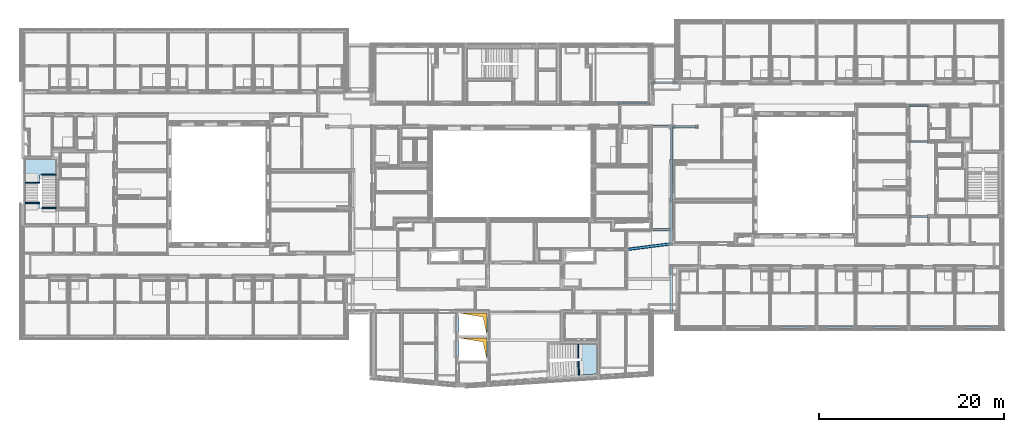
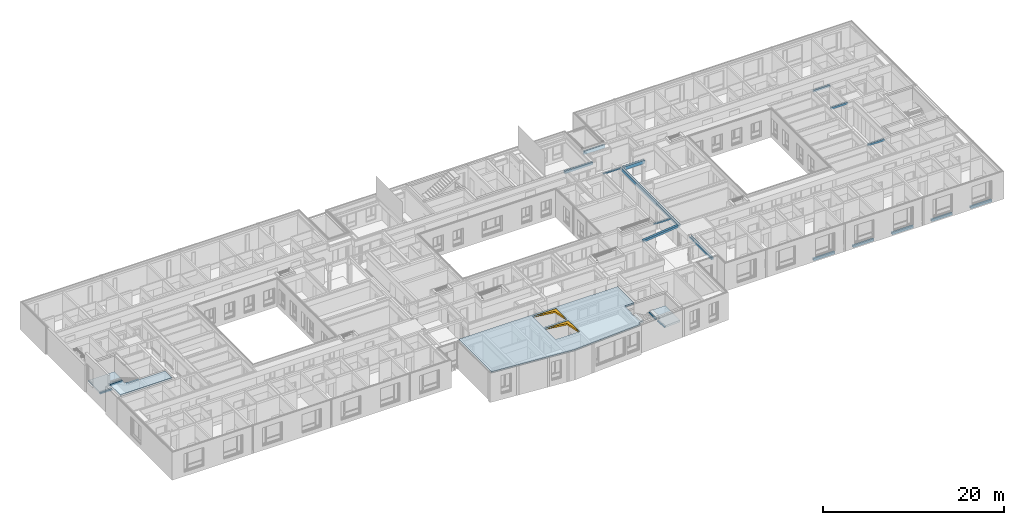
# One storey, part 7 of 222: 18 beams, 10 slabs, 2 windows, 2 openings.
"""IFC4 building model written with IfcOpenShell, lengths in metres."""

import ifcopenshell
import ifcopenshell.guid

model = None  # the IFC model being written
_history = None  # IfcOwnerHistory: only IFC2X3 demands one
_inside = {}  # id of a spatial element -> (the spatial element, [elements in it])
_under = {}  # id of a project, library or spatial element -> (it, [spatial elements below it])
_declared = {}  # id of a project -> (the project, [libraries it declares])
_typed = {}  # id of a type object -> (the type object, [elements of that type])
_made_of = {}  # id of a material, layer set ... -> (it, [elements and type objects made of it])


def new_model(schema):
    """Start an empty IFC model of exactly this schema.

    Asked for "IFC4X3", IfcOpenShell would pick the latest addendum, in which some entities
    have other attributes; the version numbers below select the first issue.
    IFC2X3 requires an IfcOwnerHistory on every rooted entity: one is made here for all.
    """
    global model, _history
    if schema == "IFC4X3":
        model = ifcopenshell.file(schema_version=(4, 3, 0, 0))
    else:
        model = ifcopenshell.file(schema=schema)
    _inside.clear()
    _under.clear()
    _declared.clear()
    _typed.clear()
    _made_of.clear()
    _history = None
    if model.schema == "IFC2X3":
        org = make("IfcOrganization", Name="unknown")
        user = make(
            "IfcPersonAndOrganization",
            ThePerson=make("IfcPerson", FamilyName="unknown"),
            TheOrganization=org,
        )
        app = make(
            "IfcApplication",
            ApplicationDeveloper=org,
            Version="unknown",
            ApplicationFullName="unknown",
            ApplicationIdentifier="unknown",
        )
        _history = make(
            "IfcOwnerHistory",
            OwningUser=user,
            OwningApplication=app,
            ChangeAction="ADDED",
            CreationDate=0,
        )
    return model


def make(cls, **values):
    """One entity of the class cls with the attributes given. An attribute that is None is left unset."""
    return model.create_entity(
        cls, **{name: value for name, value in values.items() if value is not None}
    )


def entity(cls, *values):
    """Any entity or typed value of the class cls, its attributes in the order of the schema. None: left unset."""
    e = model.create_entity(cls)
    for i, value in enumerate(values):
        if value is not None:
            e[i] = value
    return e


def rooted(cls, **values):
    """An entity with a GlobalId (a new one), such as an element, a storey or a relation."""
    return make(cls, GlobalId=ifcopenshell.guid.new(), OwnerHistory=_history, **values)


def si_unit(unit_type, name, prefix=None):
    """IfcSIUnit, for example si_unit("LENGTHUNIT", "METRE", prefix="MILLI")."""
    return make("IfcSIUnit", UnitType=unit_type, Prefix=prefix, Name=name)


def converted_unit(unit_type, name, factor, base, dimensions=None, offset=None):
    """IfcConversionBasedUnit, such as the inch: factor (a typed value) times the base unit."""
    return make(
        "IfcConversionBasedUnit"
        if offset is None
        else "IfcConversionBasedUnitWithOffset",
        ConversionOffset=offset,
        Dimensions=None
        if dimensions is None
        else entity("IfcDimensionalExponents", *dimensions),
        UnitType=unit_type,
        Name=name,
        ConversionFactor=make(
            "IfcMeasureWithUnit", ValueComponent=factor, UnitComponent=base
        ),
    )


def derived_unit(unit_type, elements):
    """IfcDerivedUnit: a product of units, each with its exponent."""
    return make(
        "IfcDerivedUnit",
        Elements=[
            make("IfcDerivedUnitElement", Unit=unit, Exponent=power)
            for unit, power in elements
        ],
        UnitType=unit_type,
    )


def assignment(units):
    """IfcUnitAssignment: the units of a project."""
    return None if units is None else make("IfcUnitAssignment", Units=units)


def point(xyz):
    """IfcCartesianPoint."""
    return None if xyz is None else make("IfcCartesianPoint", Coordinates=xyz)


def direction(xyz):
    """IfcDirection."""
    return None if xyz is None else make("IfcDirection", DirectionRatios=xyz)


def frame(location, z_axis=None, x_axis=None):
    """IfcAxis2Placement3D, a coordinate frame: its origin and axes. An axis left out is left unset."""
    return make(
        "IfcAxis2Placement3D",
        Location=point(location),
        Axis=direction(z_axis),
        RefDirection=direction(x_axis),
    )


def frame_2d(location, x_axis=None):
    """IfcAxis2Placement2D, a coordinate frame in the plane: its origin and x axis."""
    return make(
        "IfcAxis2Placement2D", Location=point(location), RefDirection=direction(x_axis)
    )


def origin():
    """The frame at (0, 0, 0) with its axes left unset."""
    return frame((0.0, 0.0, 0.0))


def origin_with_axes():
    """The frame at (0, 0, 0) with the z axis (0, 0, 1) and the x axis (1, 0, 0) written out."""
    return frame((0.0, 0.0, 0.0), z_axis=(0.0, 0.0, 1.0), x_axis=(1.0, 0.0, 0.0))


def place(relative_to, where):
    """IfcLocalPlacement: puts the frame where relative to a parent placement (None: the world)."""
    return make(
        "IfcLocalPlacement", PlacementRelTo=relative_to, RelativePlacement=where
    )


def context(
    kind, dimensions, precision=None, world=None, true_north=None, identifier=None
):
    """IfcGeometricRepresentationContext, for example the 3D "Model" context."""
    return make(
        "IfcGeometricRepresentationContext",
        ContextIdentifier=identifier,
        ContextType=kind,
        CoordinateSpaceDimension=dimensions,
        Precision=precision,
        WorldCoordinateSystem=world,
        TrueNorth=true_north,
    )


def subcontext(parent, identifier, kind, view, scale=None):
    """IfcGeometricRepresentationSubContext, for example "Body" below "Model"."""
    return make(
        "IfcGeometricRepresentationSubContext",
        ContextIdentifier=identifier,
        ContextType=kind,
        ParentContext=parent,
        TargetScale=scale,
        TargetView=view,
    )


def project(units=None, contexts=None):
    """IfcProject with its units and contexts."""
    return rooted(
        "IfcProject",
        Name="project",
        RepresentationContexts=contexts,
        UnitsInContext=assignment(units),
    )


def spatial(cls, under=None, at=None, **own):
    """A site, building, storey or space (cls), placed at a placement, below another one or the project."""
    s = rooted(cls, ObjectPlacement=at, **own)
    if under is not None:
        _under.setdefault(under.id(), (under, []))[1].append(s)
    return s


def polyline(points):
    """IfcPolyline through the points."""
    return make("IfcPolyline", Points=[point(p) for p in points])


def profile(cls, at=None, kind="AREA", **sizes):
    """A parametric profile (cls). Its sizes go by their IFC names, for example OverallWidth=200.0."""
    return make(cls, ProfileType=kind, Position=at, **sizes)


def rectangle(**sizes):
    """IfcRectangleProfileDef."""
    return profile("IfcRectangleProfileDef", **sizes)


def outline(outer, holes=None, kind="AREA"):
    """IfcArbitraryClosedProfileDef: a profile drawn as a closed curve; with holes, ...WithVoids."""
    if holes is None:
        return make("IfcArbitraryClosedProfileDef", ProfileType=kind, OuterCurve=outer)
    return make(
        "IfcArbitraryProfileDefWithVoids",
        ProfileType=kind,
        OuterCurve=outer,
        InnerCurves=holes,
    )


def extrude(swept, where, along, depth):
    """IfcExtrudedAreaSolid: the profile swept, set in the frame where, extruded along a direction by depth."""
    return make(
        "IfcExtrudedAreaSolid",
        SweptArea=swept,
        Position=where,
        ExtrudedDirection=direction(along),
        Depth=depth,
    )


def faces_of(points, faces, orient=None, outer=None):
    """IfcFace entities. A face is a list of loops; a loop is a list of indices into points, from 0.

    orient and outer hold one flag for each loop. By default every Orientation is true, the
    first loop of a face is its IfcFaceOuterBound and the others are IfcFaceBound.
    """
    made = []
    for i, loops in enumerate(faces):
        bounds = []
        for j, loop in enumerate(loops):
            is_outer = j == 0 if outer is None else outer[i][j]
            bounds.append(
                make(
                    "IfcFaceOuterBound" if is_outer else "IfcFaceBound",
                    Bound=make("IfcPolyLoop", Polygon=[points[k] for k in loop]),
                    Orientation=True if orient is None else orient[i][j],
                )
            )
        made.append(make("IfcFace", Bounds=bounds))
    return made


def open_shell(faces, orient=None, outer=None):
    """The faces of one IfcOpenShell. surface_model builds it on its shared points."""
    return ("IfcOpenShell", faces, orient, outer)


def faceted_brep(points, faces, orient=None, outer=None, voids=None):
    """IfcFacetedBrep: a solid bounded by flat faces; with voids (closed shells), ...WithVoids."""
    shared = [point(p) for p in points]
    hull = make("IfcClosedShell", CfsFaces=faces_of(shared, faces, orient, outer))
    if voids is None:
        return make("IfcFacetedBrep", Outer=hull)
    return make(
        "IfcFacetedBrepWithVoids",
        Outer=hull,
        Voids=[
            make(cls, CfsFaces=faces_of(shared, fs, o, b)) for cls, fs, o, b in voids
        ],
    )


def surface_model(cls, points, shells):
    """IfcFaceBasedSurfaceModel or IfcShellBasedSurfaceModel (cls): surfaces that need not close."""
    shared = [point(p) for p in points]
    made = [make(c, CfsFaces=faces_of(shared, fs, o, b)) for c, fs, o, b in shells]
    if cls == "IfcFaceBasedSurfaceModel":
        return make(cls, FbsmFaces=made)
    return make(cls, SbsmBoundary=made)


def shape(context_of_items, identifier, shape_type, items):
    """IfcShapeRepresentation: the items that make up one representation, for example the "Body"."""
    return make(
        "IfcShapeRepresentation",
        ContextOfItems=context_of_items,
        RepresentationIdentifier=identifier,
        RepresentationType=shape_type,
        Items=items,
    )


def source(mapping_origin, context_of_items, identifier, shape_type, items):
    """IfcRepresentationMap: a shape defined once, which mapped items show again and again."""
    return make(
        "IfcRepresentationMap",
        MappingOrigin=mapping_origin,
        MappedRepresentation=shape(context_of_items, identifier, shape_type, items),
    )


def transform(
    local_origin,
    x_axis=None,
    y_axis=None,
    z_axis=None,
    scale=None,
    scale2=None,
    scale3=None,
    uniform=True,
):
    """IfcCartesianTransformationOperator3D, or its non-uniform kind. x_axis, y_axis, z_axis: its Axis1, 2, 3."""
    if uniform:
        return make(
            "IfcCartesianTransformationOperator3D",
            Axis1=direction(x_axis),
            Axis2=direction(y_axis),
            LocalOrigin=point(local_origin),
            Scale=scale,
            Axis3=direction(z_axis),
        )
    return make(
        "IfcCartesianTransformationOperator3DnonUniform",
        Axis1=direction(x_axis),
        Axis2=direction(y_axis),
        LocalOrigin=point(local_origin),
        Scale=scale,
        Axis3=direction(z_axis),
        Scale2=scale2,
        Scale3=scale3,
    )


def mapped(mapping_source, mapping_target):
    """IfcMappedItem: shows the shape of a source again, moved by a transform."""
    return make(
        "IfcMappedItem", MappingSource=mapping_source, MappingTarget=mapping_target
    )


def material(Name=None, Category=None):
    """IfcMaterial."""
    return make("IfcMaterial", Name=Name, Category=Category)


def made_of(thing, what):
    """Note that an element or type object is made of a material, layer set ...; save() writes the relation."""
    if what is not None:
        _made_of.setdefault(what.id(), (what, []))[1].append(thing)
    return thing


def element(
    cls,
    number,
    at=None,
    inside=None,
    cuts=None,
    type_object=None,
    material=None,
    context=None,
    identifier="Body",
    shape_type=None,
    held_by="IfcProductDefinitionShape",
    body=None,
    shapes=None,
    **own,
):
    """One element of the class cls, such as IfcWall. Its Tag is "e" and its number.

    at: its placement. inside: the storey or other place that contains it. cuts: it is an
    opening in that element (IfcRelVoidsElement). A single representation is given by context,
    identifier, shape_type and body (its items); several are given by shapes. held_by: the class
    of the entity that holds the representations. save() writes the other relations.
    """
    e = rooted(cls, Tag="e%d" % number, ObjectPlacement=at, **own)
    if body is not None:
        shapes = [shape(context, identifier, shape_type, body)]
    if shapes is not None:
        e.Representation = make(held_by, Representations=shapes)
    if inside is not None:
        _inside.setdefault(inside.id(), (inside, []))[1].append(e)
    if cuts is not None:
        rooted(
            "IfcRelVoidsElement", RelatingBuildingElement=cuts, RelatedOpeningElement=e
        )
    if type_object is not None:
        _typed.setdefault(type_object.id(), (type_object, []))[1].append(e)
    return made_of(e, material)


def fill(opening, filler):
    """IfcRelFillsElement: the door or window that sits in an opening."""
    return rooted(
        "IfcRelFillsElement",
        RelatingOpeningElement=opening,
        RelatedBuildingElement=filler,
    )


def aggregate(whole, parts):
    """IfcRelAggregates: a whole, such as a stair, and the parts it consists of."""
    return rooted("IfcRelAggregates", RelatingObject=whole, RelatedObjects=parts)


def save(model, path):
    """Write the relations noted so far, then the file.

    IfcRelAggregates (storeys below a building ...), IfcRelContainedInSpatialStructure (elements
    in a storey), IfcRelDefinesByType, IfcRelAssociatesMaterial and IfcRelDeclares: one each for
    every whole, place, type object, material and project.
    """
    for whole, parts in _under.values():
        aggregate(whole, parts)
    for where, things in _inside.values():
        rooted(
            "IfcRelContainedInSpatialStructure",
            RelatedElements=things,
            RelatingStructure=where,
        )
    for kind, things in _typed.values():
        rooted("IfcRelDefinesByType", RelatedObjects=things, RelatingType=kind)
    for what, things in _made_of.values():
        rooted("IfcRelAssociatesMaterial", RelatedObjects=things, RelatingMaterial=what)
    for by, libraries in _declared.values():
        rooted("IfcRelDeclares", RelatingContext=by, RelatedDefinitions=libraries)
    model.write(path)


model = new_model("IFC4")

# Units and contexts
model_context = context("Model", 3, precision=1e-05, world=origin())
body_context = subcontext(model_context, "Body", "Model", "MODEL_VIEW")
ifc_project = project(units=[si_unit("LENGTHUNIT", "METRE"), si_unit("AREAUNIT", "SQUARE_METRE"), si_unit("VOLUMEUNIT", "CUBIC_METRE"), si_unit("MASSUNIT", "GRAM", prefix="KILO"), converted_unit("PLANEANGLEUNIT", "DEGREE", entity("IfcPlaneAngleMeasure", 0.0174532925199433), si_unit("PLANEANGLEUNIT", "RADIAN"), dimensions=[0, 0, 0, 0, 0, 0, 0]), derived_unit("THERMALTRANSMITTANCEUNIT", [(si_unit("POWERUNIT", "WATT"), 1), (si_unit("THERMODYNAMICTEMPERATUREUNIT", "KELVIN"), -1), (si_unit("LENGTHUNIT", "METRE"), -2)]), derived_unit("VOLUMETRICFLOWRATEUNIT", [(si_unit("LENGTHUNIT", "METRE"), 3), (converted_unit("TIMEUNIT", "hour", entity("IfcTimeMeasure", 3600.0), si_unit("TIMEUNIT", "SECOND"), dimensions=[0, 0, 1, 0, 0, 0, 0]), -1), (si_unit("LENGTHUNIT", "METRE"), -1)])], contexts=[model_context])

# Site, building, storey
site_placement = place(None, origin())
site = spatial("IfcSite", under=ifc_project, at=site_placement, Name="Psychiatrie Neubau Wunstorf", CompositionType="ELEMENT")
building_placement = place(site_placement, origin())
building = spatial("IfcBuilding", under=site, at=building_placement, Name="Neubau H2 Stationsgebäude", CompositionType="ELEMENT")
storey_placement = place(building_placement, frame((0.0, 0.0, 3.6)))
storey = spatial("IfcBuildingStorey", under=building, at=storey_placement, Name="H2 Ebene +1", CompositionType="ELEMENT", Elevation=3.6)

# Beams
ifc_material_1 = material(Name="BS Bekleidung")
beam_1_placement = place(storey_placement, frame((68.1750000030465, 25.114, 3.114)))
element("IfcBeam", 1, at=beam_1_placement, inside=storey, material=ifc_material_1, PredefinedType="NOTDEFINED", context=body_context, shape_type="Brep", body=[
    faceted_brep([(0.0, 0.232, 0.0), (0.0, 0.0, 0.0), (2.65, 0.0, 0.0), (2.65, 0.232, 0.0), (0.0, 0.196, 0.436), (0.0, 0.232, 0.436), (2.65, 0.232, 0.436), (2.65, 0.196, 0.436), (0.0, 0.196, 0.036), (0.0, 0.036, 0.036), (0.0, 0.036, 0.436), (0.0, 0.0, 0.436), (2.65, 0.0, 0.436), (2.65, 0.036, 0.436), (2.65, 0.036, 0.036), (2.65, 0.196, 0.036)], [[[0, 1, 2, 3]], [[4, 5, 6, 7]], [[8, 9, 10, 11, 1, 0, 5, 4]], [[2, 1, 11, 12]], [[7, 6, 3, 2, 12, 13, 14, 15]], [[0, 3, 6, 5]], [[13, 12, 11, 10]], [[14, 9, 8, 15]], [[13, 10, 9, 14]], [[15, 8, 4, 7]]], orient=[[False], [False], [False], [False], [False], [False], [False], [False], [False], [False]]),
])
ifc_material_2 = material(Name="BS Bekleidung")
beam_2_placement = place(storey_placement, frame((102.150000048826, -1.39600345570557, 0.0)))
element("IfcBeam", 2, at=beam_2_placement, inside=storey, material=ifc_material_2, PredefinedType="NOTDEFINED", context=body_context, shape_type="Brep", body=[
    faceted_brep([(0.0, 0.232007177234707, 0.296), (2.7, 0.232, 0.296), (2.7, 0.0, 0.296), (0.0, 3.588617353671e-06, 0.296), (0.0, 0.196007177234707, 0.0), (2.7, 0.196, 0.0), (2.7, 0.232, 0.0), (0.0, 0.232007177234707, 0.0), (0.0, 0.196007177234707, 0.26), (0.0, 3.588617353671e-06, 0.0), (0.0, 0.0360035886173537, 0.0), (0.0, 0.0360035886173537, 0.26), (2.7, 0.0, 0.0), (2.7, 0.196, 0.26), (2.7, 0.036, 0.26), (2.7, 0.036, 0.0)], [[[0, 1, 2, 3]], [[4, 5, 6, 7]], [[8, 4, 7, 0, 3, 9, 10, 11]], [[2, 12, 9, 3]], [[5, 13, 14, 15, 12, 2, 1, 6]], [[0, 7, 6, 1]], [[15, 10, 9, 12]], [[14, 13, 8, 11]], [[15, 14, 11, 10]], [[13, 5, 4, 8]]], orient=[[False], [False], [False], [False], [False], [False], [False], [False], [False], [False]]),
])
ifc_material_3 = material(Name="BS Bekleidung")
beam_3_placement = place(storey_placement, frame((97.1500000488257, -1.39600345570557, 0.0)))
element("IfcBeam", 3, at=beam_3_placement, inside=storey, material=ifc_material_3, PredefinedType="NOTDEFINED", context=body_context, shape_type="Brep", body=[
    faceted_brep([(0.0, 0.232007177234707, 0.296), (2.7, 0.232, 0.296), (2.7, 0.0, 0.296), (0.0, 3.588617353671e-06, 0.296), (0.0, 0.196007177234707, 0.0), (2.7, 0.196, 0.0), (2.7, 0.232, 0.0), (0.0, 0.232007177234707, 0.0), (0.0, 0.196007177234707, 0.26), (0.0, 3.588617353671e-06, 0.0), (0.0, 0.0360035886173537, 0.0), (0.0, 0.0360035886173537, 0.26), (2.7, 0.0, 0.0), (2.7, 0.196, 0.26), (2.7, 0.036, 0.26), (2.7, 0.036, 0.0)], [[[0, 1, 2, 3]], [[4, 5, 6, 7]], [[8, 4, 7, 0, 3, 9, 10, 11]], [[2, 12, 9, 3]], [[5, 13, 14, 15, 12, 2, 1, 6]], [[0, 7, 6, 1]], [[15, 10, 9, 12]], [[14, 13, 8, 11]], [[15, 14, 11, 10]], [[13, 5, 4, 8]]], orient=[[False], [False], [False], [False], [False], [False], [False], [False], [False], [False]]),
])
ifc_material_4 = material(Name="BS Bekleidung")
beam_4_placement = place(storey_placement, frame((92.1500000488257, -1.39600345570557, 0.0)))
element("IfcBeam", 4, at=beam_4_placement, inside=storey, material=ifc_material_4, PredefinedType="NOTDEFINED", context=body_context, shape_type="Brep", body=[
    faceted_brep([(0.0, 0.232007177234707, 0.296), (2.7, 0.232, 0.296), (2.7, 0.0, 0.296), (0.0, 3.588617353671e-06, 0.296), (0.0, 0.196007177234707, 0.0), (2.7, 0.196, 0.0), (2.7, 0.232, 0.0), (0.0, 0.232007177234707, 0.0), (0.0, 0.196007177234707, 0.26), (0.0, 3.588617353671e-06, 0.0), (0.0, 0.0360035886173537, 0.0), (0.0, 0.0360035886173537, 0.26), (2.7, 0.0, 0.0), (2.7, 0.196, 0.26), (2.7, 0.036, 0.26), (2.7, 0.036, 0.0)], [[[0, 1, 2, 3]], [[4, 5, 6, 7]], [[8, 4, 7, 0, 3, 9, 10, 11]], [[2, 12, 9, 3]], [[5, 13, 14, 15, 12, 2, 1, 6]], [[0, 7, 6, 1]], [[15, 10, 9, 12]], [[14, 13, 8, 11]], [[15, 14, 11, 10]], [[13, 5, 4, 8]]], orient=[[False], [False], [False], [False], [False], [False], [False], [False], [False], [False]]),
])
ifc_material_5 = material(Name="BS Bekleidung")
beam_5_placement = place(storey_placement, frame((87.1500000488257, -1.39600345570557, 0.0)))
element("IfcBeam", 5, at=beam_5_placement, inside=storey, material=ifc_material_5, PredefinedType="NOTDEFINED", context=body_context, shape_type="Brep", body=[
    faceted_brep([(0.0, 0.232007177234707, 0.296), (2.7, 0.232, 0.296), (2.7, 0.0, 0.296), (0.0, 3.588617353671e-06, 0.296), (0.0, 0.196007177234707, 0.0), (2.7, 0.196, 0.0), (2.7, 0.232, 0.0), (0.0, 0.232007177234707, 0.0), (0.0, 0.196007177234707, 0.26), (0.0, 3.588617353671e-06, 0.0), (0.0, 0.0360035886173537, 0.0), (0.0, 0.0360035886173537, 0.26), (2.7, 0.0, 0.0), (2.7, 0.196, 0.26), (2.7, 0.036, 0.26), (2.7, 0.036, 0.0)], [[[0, 1, 2, 3]], [[4, 5, 6, 7]], [[8, 4, 7, 0, 3, 9, 10, 11]], [[2, 12, 9, 3]], [[5, 13, 14, 15, 12, 2, 1, 6]], [[0, 7, 6, 1]], [[15, 10, 9, 12]], [[14, 13, 8, 11]], [[15, 14, 11, 10]], [[13, 5, 4, 8]]], orient=[[False], [False], [False], [False], [False], [False], [False], [False], [False], [False]]),
])
ifc_material_6 = material(Name="BS Bekleidung")
beam_6_placement = place(storey_placement, frame((82.1500000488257, -1.39600345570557, 0.0)))
element("IfcBeam", 6, at=beam_6_placement, inside=storey, material=ifc_material_6, PredefinedType="NOTDEFINED", context=body_context, shape_type="Brep", body=[
    faceted_brep([(0.0, 0.232007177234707, 0.296), (2.7, 0.232, 0.296), (2.7, 0.0, 0.296), (0.0, 3.588617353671e-06, 0.296), (0.0, 0.196007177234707, 0.0), (2.7, 0.196, 0.0), (2.7, 0.232, 0.0), (0.0, 0.232007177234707, 0.0), (0.0, 0.196007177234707, 0.26), (0.0, 3.588617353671e-06, 0.0), (0.0, 0.0360035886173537, 0.0), (0.0, 0.0360035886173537, 0.26), (2.7, 0.0, 0.0), (2.7, 0.196, 0.26), (2.7, 0.036, 0.26), (2.7, 0.036, 0.0)], [[[0, 1, 2, 3]], [[4, 5, 6, 7]], [[8, 4, 7, 0, 3, 9, 10, 11]], [[2, 12, 9, 3]], [[5, 13, 14, 15, 12, 2, 1, 6]], [[0, 7, 6, 1]], [[15, 10, 9, 12]], [[14, 13, 8, 11]], [[15, 14, 11, 10]], [[13, 5, 4, 8]]], orient=[[False], [False], [False], [False], [False], [False], [False], [False], [False], [False]]),
])
ifc_material_7 = material(Name="BS Bekleidung")
beam_7_placement = place(storey_placement, frame((65.2649866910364, 6.98039791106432, 3.284)))
element("IfcBeam", 7, at=beam_7_placement, inside=storey, material=ifc_material_7, PredefinedType="NOTDEFINED", context=body_context, shape_type="Brep", body=[
    faceted_brep([(4.87001331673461, 0.652376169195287, 0.036), (4.87010274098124, 0.894300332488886, 0.266), (4.87001331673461, 0.930575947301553, 0.266), (4.87010274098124, 0.894300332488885, 0.036), (0.0, 0.31448663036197, 0.0), (5.95409765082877e-07, 0.0, 0.0), (4.87001331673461, 0.616089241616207, 0.0), (4.87001331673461, 0.930575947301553, 0.0), (5.95409765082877e-07, 0.0, 0.266), (4.87001331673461, 0.616089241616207, 0.266), (0.0, 0.31448663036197, 0.266), (5.95409765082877e-07, 0.278199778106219, 0.266), (5.95409765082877e-07, 0.278199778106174, 0.036), (4.56480817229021e-06, 0.0362874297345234, 0.036), (4.56480817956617e-06, 0.0362874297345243, 0.266), (4.87001331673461, 0.652376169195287, 0.266)], [[[0, 1, 2]], [[0, 3, 1]], [[4, 5, 6, 7]], [[6, 5, 8, 9]], [[4, 7, 2, 10]], [[4, 10, 11, 12, 13, 14, 8, 5]], [[6, 9, 15, 0, 2, 7]], [[10, 2, 1, 11]], [[9, 8, 14, 15]], [[15, 14, 13, 0]], [[11, 1, 3, 12]], [[3, 0, 13, 12]]], orient=[[False], [False], [False], [False], [False], [False], [False], [False], [False], [False], [False], [False]]),
])
ifc_material_8 = material(Name="HEA240")
beam_8_placement = place(storey_placement, frame((65.2649872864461, 7.01668534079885, 3.32)))
element("IfcBeam", 8, at=beam_8_placement, inside=storey, material=ifc_material_8, Name="HEA240", PredefinedType="NOTDEFINED", context=body_context, shape_type="Brep", body=[
    faceted_brep([(0.0, 0.24191234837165, 0.0), (4.87001272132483, 0.858001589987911, 0.0), (4.87001272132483, 0.858001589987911, 0.23), (0.0, 0.24191234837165, 0.23), (4.87001272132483, 0.616088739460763, 0.0), (4.87001272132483, 0.616088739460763, 0.23), (3.96939839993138e-06, 0.0, 0.0), (3.96939839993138e-06, 0.0, 0.23)], [[[0, 1, 2, 3]], [[1, 4, 5, 2]], [[4, 6, 7, 5]], [[6, 0, 3, 7]], [[7, 3, 2, 5]], [[0, 6, 4, 1]]], orient=[[False], [False], [False], [False], [False], [False]]),
])
ifc_material_9 = material(Name="BS Bekleidung")
beam_9_placement = place(storey_placement, frame((70.099000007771, 7.63750000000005, 3.284)))
element("IfcBeam", 9, at=beam_9_placement, inside=storey, material=ifc_material_9, PredefinedType="NOTDEFINED", context=body_context, shape_type="Brep", body=[
    faceted_brep([(0.0, 0.0, 0.0), (0.312, 0.0, 0.0), (0.312, 4.81255950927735, 0.0), (0.0, 4.81255950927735, 0.0), (0.036, 0.0, 0.266), (0.0, 0.0, 0.266), (0.0, 4.81255950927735, 0.266), (0.036, 4.81255950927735, 0.266), (0.036, 0.0, 0.036), (0.276, 0.0, 0.036), (0.276, 0.0, 0.266), (0.312, 0.0, 0.266), (0.312, 4.81255950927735, 0.266), (0.276, 4.81255950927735, 0.266), (0.276, 4.81255950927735, 0.036), (0.036, 4.81255950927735, 0.036)], [[[0, 1, 2, 3]], [[4, 5, 6, 7]], [[8, 9, 10, 11, 1, 0, 5, 4]], [[2, 1, 11, 12]], [[7, 6, 3, 2, 12, 13, 14, 15]], [[0, 3, 6, 5]], [[13, 12, 11, 10]], [[14, 9, 8, 15]], [[13, 10, 9, 14]], [[15, 8, 4, 7]]], orient=[[False], [False], [False], [False], [False], [False], [False], [False], [False], [False]]),
])
ifc_material_10 = material(Name="BS Bekleidung")
beam_10_placement = place(storey_placement, frame((70.0989950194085, 0.3399963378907, 3.284)))
element("IfcBeam", 10, at=beam_10_placement, inside=storey, material=ifc_material_10, PredefinedType="NOTDEFINED", context=body_context, shape_type="Brep", body=[
    faceted_brep([(0.0, 0.0, 0.0), (0.312, 0.0, 0.0), (0.312, 4.96250366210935, 0.0), (0.0, 4.96250366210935, 0.0), (0.036, 0.0, 0.266), (0.0, 0.0, 0.266), (0.0, 4.96250366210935, 0.266), (0.036, 4.96250366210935, 0.266), (0.036, 0.0, 0.036), (0.276, 0.0, 0.036), (0.276, 0.0, 0.266), (0.312, 0.0, 0.266), (0.312, 4.96250366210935, 0.266), (0.276, 4.96250366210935, 0.266), (0.276, 4.96250366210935, 0.036), (0.036, 4.96250366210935, 0.036)], [[[0, 1, 2, 3]], [[4, 5, 6, 7]], [[8, 9, 10, 11, 1, 0, 5, 4]], [[2, 1, 11, 12]], [[7, 6, 3, 2, 12, 13, 14, 15]], [[0, 3, 6, 5]], [[13, 12, 11, 10]], [[14, 9, 8, 15]], [[13, 10, 9, 14]], [[15, 8, 4, 7]]], orient=[[False], [False], [False], [False], [False], [False], [False], [False], [False], [False]]),
])
ifc_material_11 = material(Name="BS Bekleidung")
beam_11_placement = place(storey_placement, frame((67.9229969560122, 9.1989975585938, 3.381)))
element("IfcBeam", 11, at=beam_11_placement, inside=storey, material=ifc_material_11, PredefinedType="NOTDEFINED", context=body_context, shape_type="Brep", body=[
    faceted_brep([(0.0, 0.212, 0.0), (0.0, 0.0, 0.0), (2.2120030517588, 0.0, 0.0), (2.2120030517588, 0.212, 0.0), (0.0, 0.176, 0.169), (0.0, 0.212, 0.169), (2.2120030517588, 0.212, 0.169), (2.2120030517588, 0.176, 0.169), (0.0, 0.176, 0.036), (0.0, 0.036, 0.036), (0.0, 0.036, 0.169), (0.0, 0.0, 0.169), (2.2120030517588, 0.0, 0.169), (2.2120030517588, 0.036, 0.169), (2.2120030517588, 0.036, 0.036), (2.2120030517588, 0.176, 0.036)], [[[0, 1, 2, 3]], [[4, 5, 6, 7]], [[8, 9, 10, 11, 1, 0, 5, 4]], [[2, 1, 11, 12]], [[7, 6, 3, 2, 12, 13, 14, 15]], [[0, 3, 6, 5]], [[13, 12, 11, 10]], [[14, 9, 8, 15]], [[13, 10, 9, 14]], [[15, 8, 4, 7]]], orient=[[False], [False], [False], [False], [False], [False], [False], [False], [False], [False]]),
])
ifc_material_12 = material(Name="BS Bekleidung")
beam_12_placement = place(storey_placement, frame((96.0000024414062, 10.6105021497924, 3.314)))
element("IfcBeam", 12, at=beam_12_placement, inside=storey, material=ifc_material_12, PredefinedType="NOTDEFINED", context=body_context, shape_type="Brep", body=[
    faceted_brep([(0.0, 0.232, 0.0), (0.0, 0.0, 0.0), (2.15, 0.0, 0.0), (2.15, 0.232, 0.0), (0.0, 0.196, 0.236), (0.0, 0.232, 0.236), (2.15, 0.232, 0.236), (2.15, 0.196, 0.236), (0.0, 0.196, 0.036), (0.0, 0.036, 0.036), (0.0, 0.036, 0.236), (0.0, 0.0, 0.236), (2.15, 0.0, 0.236), (2.15, 0.036, 0.236), (2.15, 0.036, 0.036), (2.15, 0.196, 0.036)], [[[0, 1, 2, 3]], [[4, 5, 6, 7]], [[8, 9, 10, 11, 1, 0, 5, 4]], [[2, 1, 11, 12]], [[7, 6, 3, 2, 12, 13, 14, 15]], [[0, 3, 6, 5]], [[13, 12, 11, 10]], [[14, 9, 8, 15]], [[13, 10, 9, 14]], [[15, 8, 4, 7]]], orient=[[False], [False], [False], [False], [False], [False], [False], [False], [False], [False]]),
])
ifc_material_13 = material(Name="BS Bekleidung")
beam_13_placement = place(storey_placement, frame((95.999999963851, 18.7540080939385, 3.314)))
element("IfcBeam", 13, at=beam_13_placement, inside=storey, material=ifc_material_13, PredefinedType="NOTDEFINED", context=body_context, shape_type="Brep", body=[
    faceted_brep([(0.0, 0.232, 0.0), (0.0, 0.0, 0.0), (2.15, 0.0, 0.0), (2.15, 0.232, 0.0), (0.0, 0.196, 0.236), (0.0, 0.232, 0.236), (2.15, 0.232, 0.236), (2.15, 0.196, 0.236), (0.0, 0.196, 0.036), (0.0, 0.036, 0.036), (0.0, 0.036, 0.236), (0.0, 0.0, 0.236), (2.15, 0.0, 0.236), (2.15, 0.036, 0.236), (2.15, 0.036, 0.036), (2.15, 0.196, 0.036)], [[[0, 1, 2, 3]], [[4, 5, 6, 7]], [[8, 9, 10, 11, 1, 0, 5, 4]], [[2, 1, 11, 12]], [[7, 6, 3, 2, 12, 13, 14, 15]], [[0, 3, 6, 5]], [[13, 12, 11, 10]], [[14, 9, 8, 15]], [[13, 10, 9, 14]], [[15, 8, 4, 7]]], orient=[[False], [False], [False], [False], [False], [False], [False], [False], [False], [False]]),
])
ifc_material_14 = material(Name="BS Bekleidung")
beam_14_placement = place(storey_placement, frame((95.9999998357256, 22.6040026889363, 3.314)))
element("IfcBeam", 14, at=beam_14_placement, inside=storey, material=ifc_material_14, PredefinedType="NOTDEFINED", context=body_context, shape_type="Brep", body=[
    faceted_brep([(0.0, 0.231999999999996, 0.0), (0.0, 0.0, 0.0), (2.15, 0.0, 0.0), (2.15, 0.231999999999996, 0.0), (0.0, 0.195999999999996, 0.236), (0.0, 0.231999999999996, 0.236), (2.15, 0.231999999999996, 0.236), (2.15, 0.195999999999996, 0.236), (0.0, 0.195999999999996, 0.036), (0.0, 0.036, 0.036), (0.0, 0.036, 0.236), (0.0, 0.0, 0.236), (2.15, 0.0, 0.236), (2.15, 0.036, 0.236), (2.15, 0.036, 0.036), (2.15, 0.195999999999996, 0.036)], [[[0, 1, 2, 3]], [[4, 5, 6, 7]], [[8, 9, 10, 11, 1, 0, 5, 4]], [[2, 1, 11, 12]], [[7, 6, 3, 2, 12, 13, 14, 15]], [[0, 3, 6, 5]], [[13, 12, 11, 10]], [[14, 9, 8, 15]], [[13, 10, 9, 14]], [[15, 8, 4, 7]]], orient=[[False], [False], [False], [False], [False], [False], [False], [False], [False], [False]]),
])
ifc_material_15 = material(Name="BS Bekleidung")
beam_15_placement = place(storey_placement, frame((64.432500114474, 22.8640000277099, 3.214)))
element("IfcBeam", 15, at=beam_15_placement, inside=storey, material=ifc_material_15, PredefinedType="NOTDEFINED", context=body_context, shape_type="Brep", body=[
    faceted_brep([(2.09579739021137e-08, 0.23200032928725, 0.0), (0.0, 3.2928724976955e-07, 0.0), (3.62049987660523, 0.0, 0.0), (3.62050004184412, 0.231999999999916, 0.0), (2.09579739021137e-08, 0.19600032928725, 0.336), (2.09579739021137e-08, 0.23200032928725, 0.336), (3.62050004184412, 0.231999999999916, 0.336), (3.62050004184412, 0.195999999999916, 0.336), (2.09579739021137e-08, 0.19600032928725, 0.036), (0.0, 0.0360003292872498, 0.036), (0.0, 0.0360003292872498, 0.336), (0.0, 3.2928724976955e-07, 0.336), (3.62049987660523, 0.0, 0.336), (3.62049987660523, 0.036, 0.336), (3.62049987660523, 0.036, 0.036), (3.62050004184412, 0.195999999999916, 0.036)], [[[0, 1, 2, 3]], [[4, 5, 6, 7]], [[8, 9, 10, 11, 1, 0, 5, 4]], [[2, 1, 11, 12]], [[7, 6, 3, 2, 12, 13, 14, 15]], [[0, 3, 6, 5]], [[13, 12, 11, 10]], [[14, 9, 8, 15]], [[13, 10, 9, 14]], [[15, 8, 4, 7]]], orient=[[False], [False], [False], [False], [False], [False], [False], [False], [False], [False]]),
])
ifc_material_16 = material(Name="BS Bekleidung")
beam_16_placement = place(storey_placement, frame((70.1640061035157, 12.4500595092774, 3.114)))
element("IfcBeam", 16, at=beam_16_placement, inside=storey, material=ifc_material_16, PredefinedType="NOTDEFINED", context=body_context, shape_type="Brep", body=[
    faceted_brep([(0.0, 0.0, 0.0), (0.272, 0.0, 0.0), (0.272, 8.12494068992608, 0.0), (0.0, 8.12494068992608, 0.0), (0.036, 0.0, 0.436), (0.0, 0.0, 0.436), (0.0, 8.12494068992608, 0.436), (0.036, 8.12494068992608, 0.436), (0.036, 0.0, 0.036), (0.236, 0.0, 0.036), (0.236, 0.0, 0.436), (0.272, 0.0, 0.436), (0.272, 8.12494068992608, 0.436), (0.236, 8.12494068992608, 0.436), (0.236, 8.12494068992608, 0.036), (0.036, 8.12494068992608, 0.036)], [[[0, 1, 2, 3]], [[4, 5, 6, 7]], [[8, 9, 10, 11, 1, 0, 5, 4]], [[2, 1, 11, 12]], [[7, 6, 3, 2, 12, 13, 14, 15]], [[0, 3, 6, 5]], [[13, 12, 11, 10]], [[14, 9, 8, 15]], [[13, 10, 9, 14]], [[15, 8, 4, 7]]], orient=[[False], [False], [False], [False], [False], [False], [False], [False], [False], [False]]),
])
ifc_material_17 = material(Name="BS Bekleidung")
beam_17_placement = place(storey_placement, frame((70.4300000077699, 20.3200022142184, 3.114)))
element("IfcBeam", 17, at=beam_17_placement, inside=storey, material=ifc_material_17, PredefinedType="NOTDEFINED", context=body_context, shape_type="Brep", body=[
    faceted_brep([(0.0, 0.272, 0.0), (0.0, 0.0, 0.0), (2.74199706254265, 0.0, 0.0), (2.74199706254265, 0.272, 0.0), (0.0, 0.236, 0.436), (0.0, 0.272, 0.436), (2.74199706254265, 0.272, 0.436), (2.74199706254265, 0.236, 0.436), (0.0, 0.236, 0.036), (0.0, 0.036, 0.036), (0.0, 0.036, 0.436), (0.0, 0.0, 0.436), (2.74199706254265, 0.0, 0.436), (2.74199706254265, 0.036, 0.436), (2.74199706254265, 0.036, 0.036), (2.74199706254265, 0.236, 0.036)], [[[0, 1, 2, 3]], [[4, 5, 6, 7]], [[8, 9, 10, 11, 1, 0, 5, 4]], [[2, 1, 11, 12]], [[7, 6, 3, 2, 12, 13, 14, 15]], [[0, 3, 6, 5]], [[13, 12, 11, 10]], [[14, 9, 8, 15]], [[13, 10, 9, 14]], [[15, 8, 4, 7]]], orient=[[False], [False], [False], [False], [False], [False], [False], [False], [False], [False]]),
])
ifc_material_18 = material(Name="BS Bekleidung")
beam_18_placement = place(storey_placement, frame((67.9214909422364, 20.3799972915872, 3.381)))
element("IfcBeam", 18, at=beam_18_placement, inside=storey, material=ifc_material_18, PredefinedType="NOTDEFINED", context=body_context, shape_type="Brep", body=[
    faceted_brep([(0.0, 0.21200628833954, 0.0), (0.0, 6.28833954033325e-06, 0.0), (2.2785151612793, 0.0, 0.0), (2.2785151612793, 0.212, 0.0), (0.0, 0.17600628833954, 0.169), (0.0, 0.21200628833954, 0.169), (2.2785151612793, 0.212, 0.169), (2.2785151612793, 0.176, 0.169), (0.0, 0.17600628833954, 0.036), (0.0, 0.0360062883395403, 0.036), (0.0, 0.0360062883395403, 0.169), (0.0, 6.28833954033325e-06, 0.169), (2.2785151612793, 0.0, 0.169), (2.2785151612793, 0.036, 0.169), (2.2785151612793, 0.036, 0.036), (2.2785151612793, 0.176, 0.036)], [[[0, 1, 2, 3]], [[4, 5, 6, 7]], [[8, 9, 10, 11, 1, 0, 5, 4]], [[2, 1, 11, 12]], [[7, 6, 3, 2, 12, 13, 14, 15]], [[0, 3, 6, 5]], [[13, 12, 11, 10]], [[14, 9, 8, 15]], [[13, 10, 9, 14]], [[15, 8, 4, 7]]], orient=[[False], [False], [False], [False], [False], [False], [False], [False], [False], [False]]),
])

# Slabs
ifc_material_19 = material(Name="Stb")
slab_1_placement = place(storey_placement, frame((60.1100154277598, -4.63850212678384, 1.715)))
element("IfcSlab", 19, at=slab_1_placement, inside=storey, material=ifc_material_19, PredefinedType="FLOOR", context=body_context, shape_type="SweptSolid", body=[
    extrude(outline(polyline([(0.15, 0.0), (0.15, 1.55008454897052), (0.0, 1.55001486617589), (0.0, 1.48661758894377e-05), (0.01, 1.48661758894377e-05), (0.15, 0.0)])), origin_with_axes(), (0.0, 0.0, 1.0), 0.14),
])
ifc_material_20 = material(Name="Stb")
slab_2_placement = place(storey_placement, frame((60.2600154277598, -6.45207392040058, 1.715)))
element("IfcSlab", 20, at=slab_2_placement, inside=storey, material=ifc_material_20, PredefinedType="FLOOR", context=body_context, shape_type="SweptSolid", body=[
    extrude(outline(polyline([(0.0, 3.36365634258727), (0.0, 1.81357179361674), (0.289761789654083, 1.81356781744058), (0.289698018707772, 1.51386146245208), (0.00036587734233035, 1.4952957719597), (0.0963150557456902, 0.0), (1.98632644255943, 0.121520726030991), (1.98977822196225, 0.121520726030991), (1.98977822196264, 0.121696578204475), (1.98977822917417, 3.36358260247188), (0.0, 3.36365634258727)])), origin_with_axes(), (0.0, 0.0, 1.0), 0.25),
])
ifc_material_21 = material(Name="Stb")
slab_3_placement = place(storey_placement, frame((60.110689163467, -6.46167926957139, 1.715)))
element("IfcSlab", 21, at=slab_3_placement, inside=storey, material=ifc_material_21, PredefinedType="FLOOR", context=body_context, shape_type="SweptSolid", body=[
    extrude(rectangle(XDim=1.49837101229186, YDim=0.149999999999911, at=frame_2d((0.122820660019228, -0.74284521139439), x_axis=(0.0640356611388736, -0.997947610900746))), frame((0.0, 1.4952957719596, 0.0), z_axis=(0.0, 0.0, 1.0), x_axis=(1.0, 0.0, 0.0)), (0.0, 0.0, 1.0), 0.14),
])
ifc_material_22 = material(Name="Stb")
slab_4_placement = place(storey_placement, frame((0.28, 14.3049741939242, 1.205)))
element("IfcSlab", 22, at=slab_4_placement, inside=storey, material=ifc_material_22, PredefinedType="FLOOR", context=body_context, shape_type="SweptSolid", body=[
    extrude(rectangle(XDim=0.15, YDim=1.545, at=frame_2d((0.772499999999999, -0.075), x_axis=(0.0, -1.0))), frame((0.0, 0.15, 0.0), z_axis=(0.0, 0.0, 1.0), x_axis=(1.0, 0.0, 0.0)), (0.0, 0.0, 1.0), 0.14),
])
ifc_material_23 = material(Name="Stb")
slab_5_placement = place(storey_placement, frame((0.28, 14.4549741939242, 1.205)))
element("IfcSlab", 23, at=slab_5_placement, inside=storey, material=ifc_material_23, PredefinedType="FLOOR", context=body_context, shape_type="SweptSolid", body=[
    extrude(outline(polyline([(0.0, 2.4900257), (0.0, 0.0), (1.545, 0.0), (1.545, 0.790025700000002), (1.805, 0.790025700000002), (1.805, 0.870025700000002), (3.35, 0.870025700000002), (3.35, 2.4900257), (0.0, 2.4900257)])), origin_with_axes(), (0.0, 0.0, 1.0), 0.25),
])
ifc_material_24 = material(Name="STB")
slab_6_placement = place(storey_placement, frame((0.279999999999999, 9.8749914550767, 3.55)))
element("IfcSlab", 24, at=slab_6_placement, inside=storey, material=ifc_material_24, PredefinedType="FLOOR", context=body_context, shape_type="SweptSolid", body=[
    extrude(outline(polyline([(0.0, 2.25998273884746), (0.0, 8.43884745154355e-06), (6.58099508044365, 0.0), (6.58099508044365, 1.5), (3.35, 1.50000843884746), (3.35, 1.68000843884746), (1.805, 1.68016521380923), (1.805, 1.72500843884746), (1.545, 1.72500843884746), (1.545, 2.25998273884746), (0.0, 2.25998273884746)])), origin_with_axes(), (0.0, 0.0, 1.0), 0.25),
])
ifc_material_25 = material(Name="STB")
slab_7_placement = place(storey_placement, frame((0.279999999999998, 12.1349741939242, 3.55)))
element("IfcSlab", 25, at=slab_7_placement, inside=storey, material=ifc_material_25, PredefinedType="FLOOR", context=body_context, shape_type="SweptSolid", body=[
    extrude(rectangle(XDim=0.15, YDim=1.545, at=frame_2d((-0.772500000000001, 0.075), x_axis=(0.0, 1.0))), frame((1.545, 0.0, 0.0), z_axis=(0.0, 0.0, 1.0), x_axis=(1.0, 0.0, 0.0)), (0.0, 0.0, 1.0), 0.16),
])

# Slab, openings, windows
ifc_material_26 = material(Name="Stb")
slab_8_placement = place(storey_placement, frame((38.0299901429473, -7.60940532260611, 3.55)))
slab_8 = element("IfcSlab", 26, at=slab_8_placement, inside=storey, material=ifc_material_26, PredefinedType="FLOOR", context=body_context, shape_type="SweptSolid", body=[
    extrude(outline(polyline([(19.0548133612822, 2.97089921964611), (19.0548133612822, 4.52091806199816), (19.0548126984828, 4.52094106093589), (19.0992925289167, 4.52091806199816), (19.1948126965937, 4.52091806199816), (20.0638970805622, 4.52143805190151), (20.0638970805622, 4.52100920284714), (20.2480098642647, 4.52091400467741), (20.2480000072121, 8.13442250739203), (17.3596728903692, 8.13392250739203), (0.25, 8.13392250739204), (0.25, 8.13392525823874), (0.0, 8.13392525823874), (9.65873090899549e-06, 7.9494050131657), (2.50287174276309e-06, 0.877220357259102), (9.99834804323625, 0.0), (18.7633858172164, 0.562425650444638), (18.7633201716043, 0.928724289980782), (19.4308090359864, 0.994783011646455), (19.3362808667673, 2.46675643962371), (18.9608159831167, 2.44282709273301), (18.9608159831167, 2.97089921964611), (19.0548133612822, 2.97089921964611)])), origin_with_axes(), (0.0, 0.0, 1.0), 0.2),
])
opening_1_placement = place(slab_8_placement, frame((9.24000501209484, 2.73440288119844, 0.0)))
opening_1 = element("IfcOpeningElement", 27, at=opening_1_placement, cuts=slab_8, Name="Deckendurchbruch", ObjectType="Opening", context=body_context, shape_type="SweptSolid", body=[
    extrude(rectangle(XDim=3.02999986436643, YDim=2.45000610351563, at=frame_2d((0.0, 0.0), x_axis=(-1.0, 0.0))), frame((1.51499993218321, 1.22500305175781, 0.0), z_axis=(0.0, 0.0, 1.0), x_axis=(1.0, 0.0, 0.0)), (0.0, 0.0, 1.0), 0.2),
])
opening_2_placement = place(slab_8_placement, frame((9.24000501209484, 5.43440898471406, 0.0)))
opening_2 = element("IfcOpeningElement", 28, at=opening_2_placement, cuts=slab_8, Name="Deckendurchbruch", ObjectType="Opening", context=body_context, shape_type="SweptSolid", body=[
    extrude(rectangle(XDim=3.02999986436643, YDim=2.45001352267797, at=frame_2d((0.0, 0.0), x_axis=(-1.0, 0.0))), frame((1.51499993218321, 1.22500676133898, 0.0), z_axis=(0.0, 0.0, 1.0), x_axis=(1.0, 0.0, 0.0)), (0.0, 0.0, 1.0), 0.2),
])
shared_shape = source(origin_with_axes(), body_context, "Body", "SurfaceModel", [
    surface_model("IfcShellBasedSurfaceModel", [(2.4500003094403, 3.0299951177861, 0.0), (0.0, 3.0299951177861, 0.0), (0.0, 0.0, 0.0), (0.433102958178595, 2.59689215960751, 0.0)], [open_shell([[[0, 1, 2, 3]]], orient=[[False]])]),
    surface_model("IfcShellBasedSurfaceModel", [(2.4500003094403, 3.0299951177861, 0.2), (0.0, 3.0299951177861, 0.2), (0.0, 0.0, 0.2), (0.433102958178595, 2.59689215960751, 0.2)], [open_shell([[[0, 1, 2, 3]]], orient=[[False]])]),
])
window_1_placement = place(opening_1_placement, frame((0.0, 2.45000610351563, 0.0), z_axis=(0.0, 0.0, 1.0), x_axis=(1.22464679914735e-16, -1.0, 0.0)))
window_1 = element("IfcWindow", 29, at=window_1_placement, inside=storey, Name="Symbol BD", OverallHeight=3.03, OverallWidth=2.45, PartitioningType="USERDEFINED", PredefinedType="SKYLIGHT", context=body_context, shape_type="MappedRepresentation", body=[
    mapped(shared_shape, transform((0.0, 0.0, 0.0), x_axis=(1.0, 0.0, 0.0), y_axis=(0.0, 1.0, 0.0), z_axis=(0.0, 0.0, 1.0), scale=1.0)),
])
fill(opening_1, window_1)
window_2_placement = place(opening_2_placement, frame((0.0, 2.45001352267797, 0.0), z_axis=(0.0, 0.0, 1.0), x_axis=(1.22464679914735e-16, -1.0, 0.0)))
window_2 = element("IfcWindow", 30, at=window_2_placement, inside=storey, Name="Symbol BD", OverallHeight=3.03, OverallWidth=2.45, PartitioningType="USERDEFINED", PredefinedType="SKYLIGHT", context=body_context, shape_type="MappedRepresentation", body=[
    mapped(shared_shape, transform((0.0, 0.0, 0.0), x_axis=(1.0, 0.0, 0.0), y_axis=(0.0, 1.0, 0.0), z_axis=(0.0, 0.0, 1.0), scale=1.0)),
])
fill(opening_2, window_2)

# Slabs
ifc_material_27 = material(Name="Stb")
slab_9_placement = place(storey_placement, frame((2.085, 15.1749998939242, 1.205)))
element("IfcSlab", 31, at=slab_9_placement, inside=storey, material=ifc_material_27, PredefinedType="FLOOR", context=body_context, shape_type="SweptSolid", body=[
    extrude(rectangle(XDim=0.15, YDim=1.545, at=frame_2d((0.7725, -0.075), x_axis=(0.0, -1.0))), frame((0.0, 0.15, 0.0), z_axis=(0.0, 0.0, 1.0), x_axis=(1.0, 0.0, 0.0)), (0.0, 0.0, 1.0), 0.14),
])
ifc_material_28 = material(Name="STB")
slab_10_placement = place(storey_placement, frame((2.085, 11.5549998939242, 3.55)))
element("IfcSlab", 32, at=slab_10_placement, inside=storey, material=ifc_material_28, PredefinedType="FLOOR", context=body_context, shape_type="SweptSolid", body=[
    extrude(outline(polyline([(1.545, 0.0), (1.545, 0.15), (0.0, 0.150156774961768), (0.0, 0.000156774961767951), (1.545, 0.0)])), origin_with_axes(), (0.0, 0.0, 1.0), 0.16),
])

save(model, "model.ifc")
